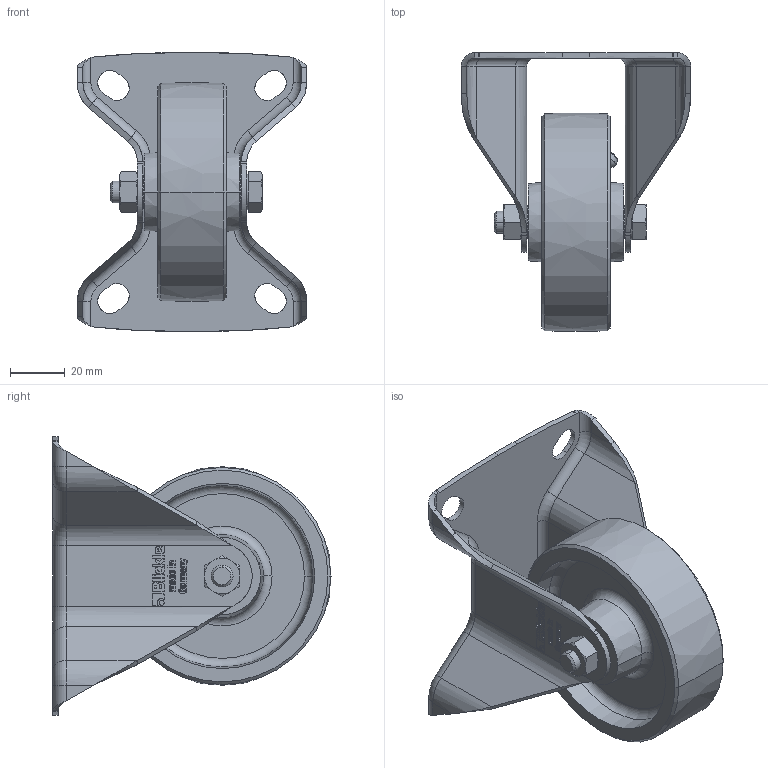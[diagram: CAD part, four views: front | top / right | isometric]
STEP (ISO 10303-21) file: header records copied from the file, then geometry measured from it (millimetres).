
FILE_DESCRIPTION (( 'STEP AP214' ), '1' );
FILE_NAME ('B-G_80G_007724-214.step', '2021-11-08T14:57:45', ( '' ), ( '' ), 'SwSTEP 2.0', 'SolidWorks 2018', '' );
FILE_SCHEMA (( 'AUTOMOTIVE_DESIGN' ));
Length unit declared in the file: millimetre
Products named in the file (5): G_80_12G_G16_3D; GH-B-080x35-01_12x36_G16_3D; B-G_80G_007724-214; G_3D_G16_G_80_12G_007567; GH-B_60-125_GH-B-080x35-01_12x36
Assembly tree (4 placements, depth 3):
  B-G_80G_007724-214
    GH-B_60-125_GH-B-080x35-01_12x36
      GH-B-080x35-01_12x36_G16_3D
    G_3D_G16_G_80_12G_007567
      G_80_12G_G16_3D
Bounding box: 84 x 101.97 x 102 mm (x, y, z)
Volume: 110626.4 mm3; surface area: 56017.7 mm2
Topology: 2 solids, 4 shells, 1320 faces, 3492 edges, 2275 vertices
Faces by surface type: plane 638, bspline 545, cylinder 55, cone 47, torus 31, sphere 4
Entity records: 63491 total; most frequent: CARTESIAN_POINT 19805, ORIENTED_EDGE 6974, DIRECTION 4159, EDGE_CURVE 3487, VERTEX_POINT 2272, LINE 2143, VECTOR 2143, EDGE_LOOP 1433
